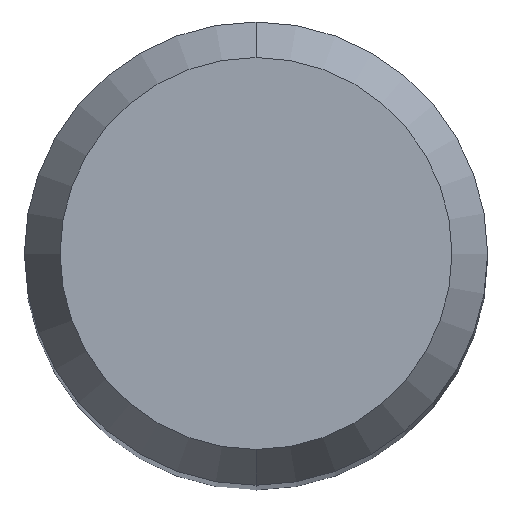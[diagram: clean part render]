
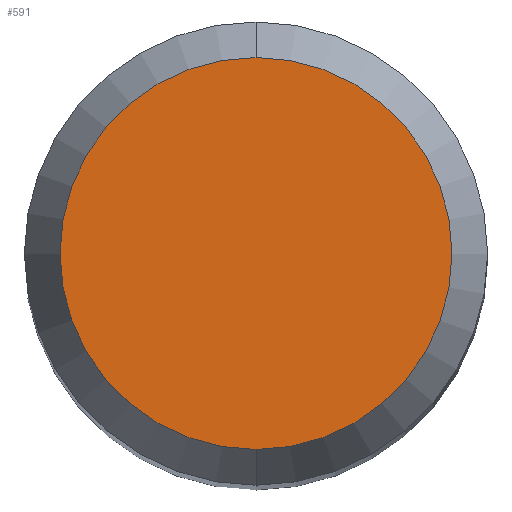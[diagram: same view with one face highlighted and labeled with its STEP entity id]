
A CAD part, top view. The second image highlights one B-rep face of the part: STEP entity #591.
In plain terms, the highlighted planar face has unit normal (0, 0, 1).
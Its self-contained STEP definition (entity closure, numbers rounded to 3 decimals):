
#307=EDGE_CURVE('',#451,#525,#721,.T.);
#451=VERTEX_POINT('',#882);
#525=VERTEX_POINT('',#966);
#549=EDGE_CURVE('',#525,#451,#993,.T.);
#591=ADVANCED_FACE('',(#1041),#1042,.T.);
#721=CIRCLE('',#1219,2.538);
#882=CARTESIAN_POINT('',(0.,-2.538,0.0));
#966=CARTESIAN_POINT('',(0.0,2.538,0.0));
#993=CIRCLE('',#1703,2.538);
#1041=FACE_OUTER_BOUND('',#1826,.T.);
#1042=PLANE('',#1827);
#1219=AXIS2_PLACEMENT_3D('',#1934,#1935,#1936);
#1703=AXIS2_PLACEMENT_3D('',#2285,#2286,#2287);
#1826=EDGE_LOOP('',(#2338,#2339));
#1827=AXIS2_PLACEMENT_3D('',#2340,#2341,#2342);
#1934=CARTESIAN_POINT('',(0.0,0.0,0.0));
#1935=DIRECTION('',(0.0,0.0,-1.0));
#1936=DIRECTION('',(0.0,1.0,0.0));
#2285=CARTESIAN_POINT('',(0.0,0.0,0.0));
#2286=DIRECTION('',(0.0,0.0,-1.0));
#2287=DIRECTION('',(0.0,1.0,0.0));
#2338=ORIENTED_EDGE('',*,*,#549,.F.);
#2339=ORIENTED_EDGE('',*,*,#307,.F.);
#2340=CARTESIAN_POINT('',(0.0,1.269,0.0));
#2341=DIRECTION('',(-0.0,0.0,1.0));
#2342=DIRECTION('',(0.0,-1.0,0.0));
